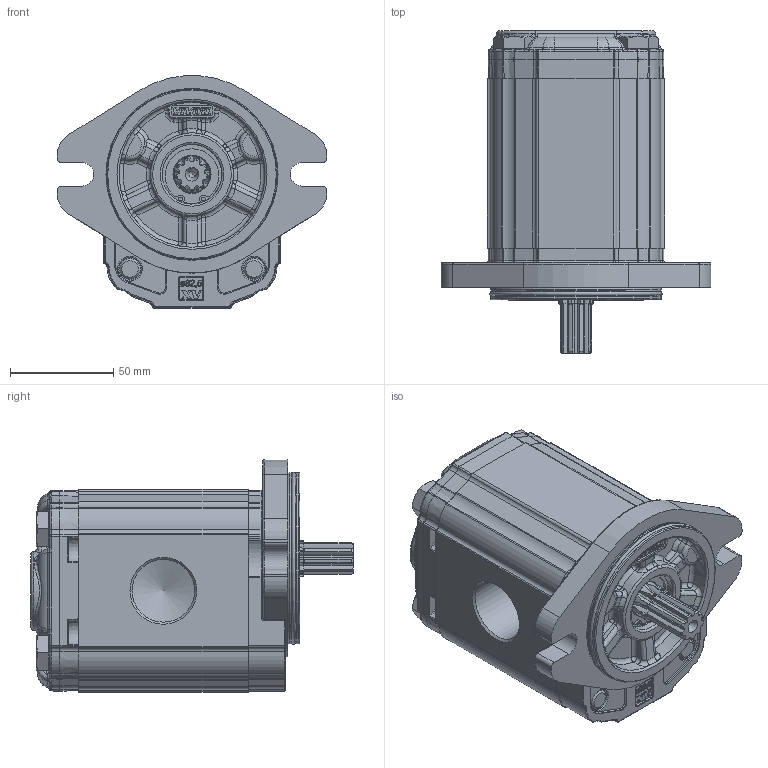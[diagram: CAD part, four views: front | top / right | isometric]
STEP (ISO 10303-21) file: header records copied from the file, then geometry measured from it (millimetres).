
FILE_DESCRIPTION(/* description */ ('Unknown'),/* implementation_level */ '2;1');
FILE_NAME(/* name */ 'X2M5731IDDF',/* time_stamp */ '2021-04-26T12:00:57+02:00',/* author */ ('Unknown'),/* organization */ ('Unknown'),/* preprocessor_version */ 'ST-DEVELOPER v16.7',/* originating_system */ 'Solid Edge',/* authorisation */ 'Unknown');
FILE_SCHEMA (('AUTOMOTIVE_DESIGN {1 0 10303 214 3 1 1}'));
Products named in the file (5): X2M5731IDDF; X2M31; 2I; X2DDH82; XM219-F
Assembly tree (4 placements, depth 2):
  X2M5731IDDF
    X2M31
    2I
    X2DDH82
    XM219-F
Bounding box: 130.38 x 155.7 x 112.3 mm (x, y, z)
Volume: 922674.5 mm3; surface area: 115845.5 mm2
Topology: 4 solids, 5 shells, 2113 faces, 5215 edges, 3176 vertices
Faces by surface type: cylinder 623, plane 573, bspline 513, torus 262, cone 104, sphere 38
Full cylindrical faces by diameter (mm): 2 x2, 10 x4, 10.5 x4, 11 x2, 16 x4, 17.42 x1, 18 x1, 20.595 x1, 23.332 x1, 25.834 x1, 28.5 x1, 28.56 x1, 28.57 x1, 28.8 x1, 30.291 x2, 30.4 x1, 79.6 x2, 82.5 x2
Entity records: 87672 total; most frequent: CARTESIAN_POINT 28215, ORIENTED_EDGE 10082, DIRECTION 8460, EDGE_CURVE 5041, AXIS2_PLACEMENT_3D 3219, VERTEX_POINT 3114, FACE_BOUND 2297, EDGE_LOOP 2294
